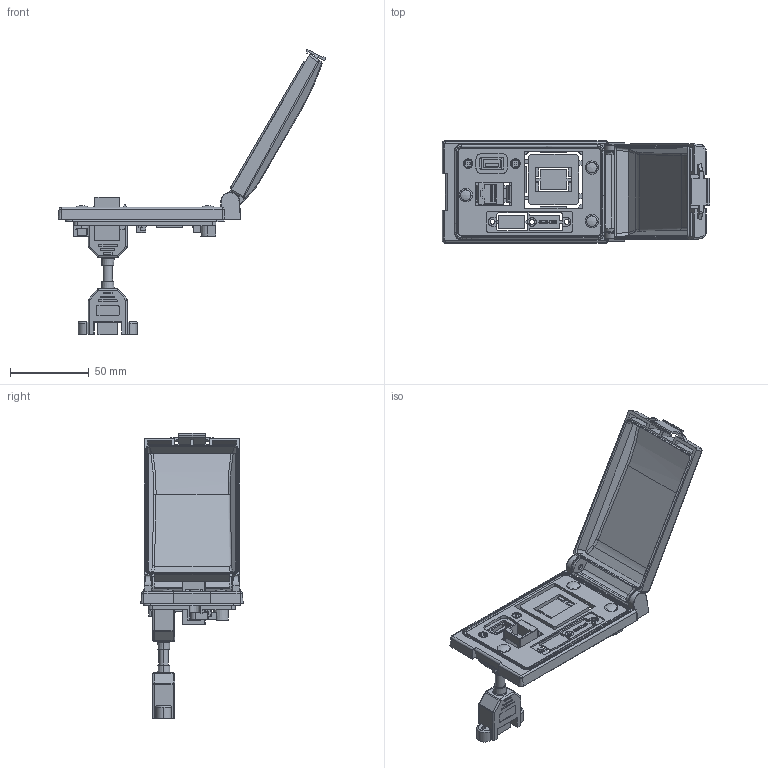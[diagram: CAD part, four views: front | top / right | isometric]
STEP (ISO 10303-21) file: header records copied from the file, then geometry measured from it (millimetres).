
FILE_DESCRIPTION (( 'STEP AP203' ), '1' );
FILE_NAME ('9045200.STEP', '2020-11-24T08:47:22', ( '' ), ( '' ), 'SwSTEP 2.0', 'SolidWorks 2016', '' );
FILE_SCHEMA (( 'CONFIG_CONTROL_DESIGN' ));
Products named in the file (1): 9045200
Bounding box: 169.88 x 65 x 181.03 mm (x, y, z)
Volume: 74270.9 mm3; surface area: 71142.4 mm2
Topology: 21 solids, 21 shells, 2119 faces, 5638 edges, 3581 vertices
Faces by surface type: plane 1115, cylinder 546, bspline 271, cone 103, torus 50, sphere 34
Entity records: 81002 total; most frequent: CARTESIAN_POINT 32239, ORIENTED_EDGE 11166, DIRECTION 8459, EDGE_CURVE 5583, VERTEX_POINT 3574, VECTOR 2983, LINE 2983, AXIS2_PLACEMENT_3D 2738
